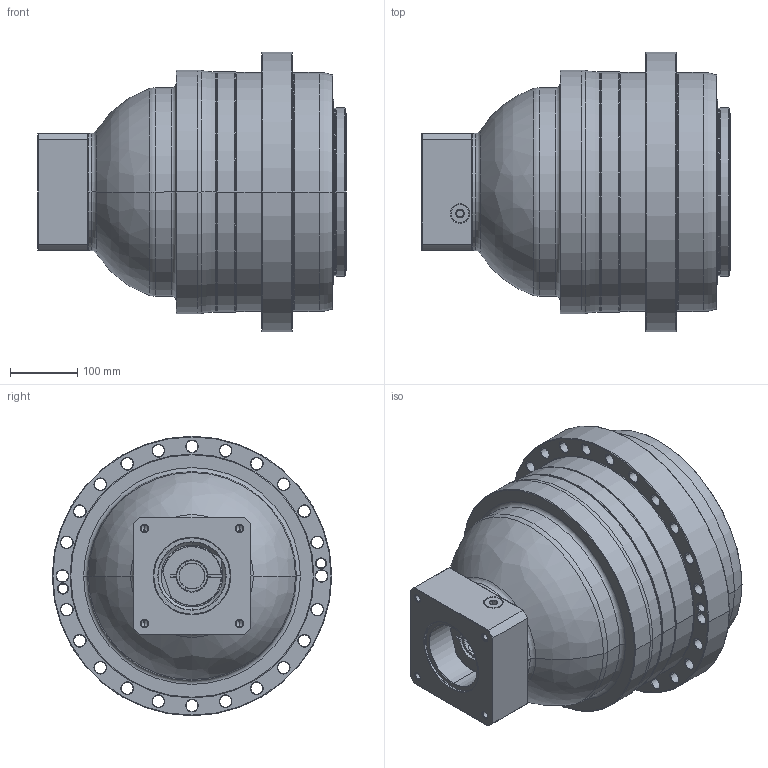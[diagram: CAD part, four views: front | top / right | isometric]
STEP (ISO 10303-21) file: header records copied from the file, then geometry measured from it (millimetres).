
FILE_DESCRIPTION((''),'2;1');
FILE_NAME('AP355_3ST_38-P0409910201_ASM','2018-06-08T',('d01226'),(''),'PRO/ENGINEER BY PARAMETRIC TECHNOLOGY CORPORATION, 2008410','PRO/ENGINEER BY PARAMETRIC TECHNOLOGY CORPORATION, 2008410','');
FILE_SCHEMA(('CONFIG_CONTROL_DESIGN'));
Length unit declared in the file: millimetre
Products named in the file (9): P0276101003; P0357101103; P1366900201; P0503900012; P0912652001; P1222100001; P0409910201; 21711422019; AP355_3ST_38-P0409910201_ASM
Assembly tree (8 placements, depth 2):
  AP355_3ST_38-P0409910201_ASM
    P0276101003
    P0357101103
    P1366900201
    P0503900012
    P0912652001
    P1222100001
    P0409910201
    21711422019
Bounding box: 457.5 x 415 x 415 mm (x, y, z)
Volume: 28633736.9 mm3; surface area: 1386546.8 mm2
Topology: 9 solids, 34 shells, 644 faces, 1492 edges, 916 vertices
Faces by surface type: cylinder 268, cone 176, plane 105, torus 81, bspline 14
Entity records: 23362 total; most frequent: CARTESIAN_POINT 7881, DIRECTION 3569, ORIENTED_EDGE 2868, AXIS2_PLACEMENT_3D 1530, EDGE_CURVE 1484, VERTEX_POINT 916, CIRCLE 873, EDGE_LOOP 802
